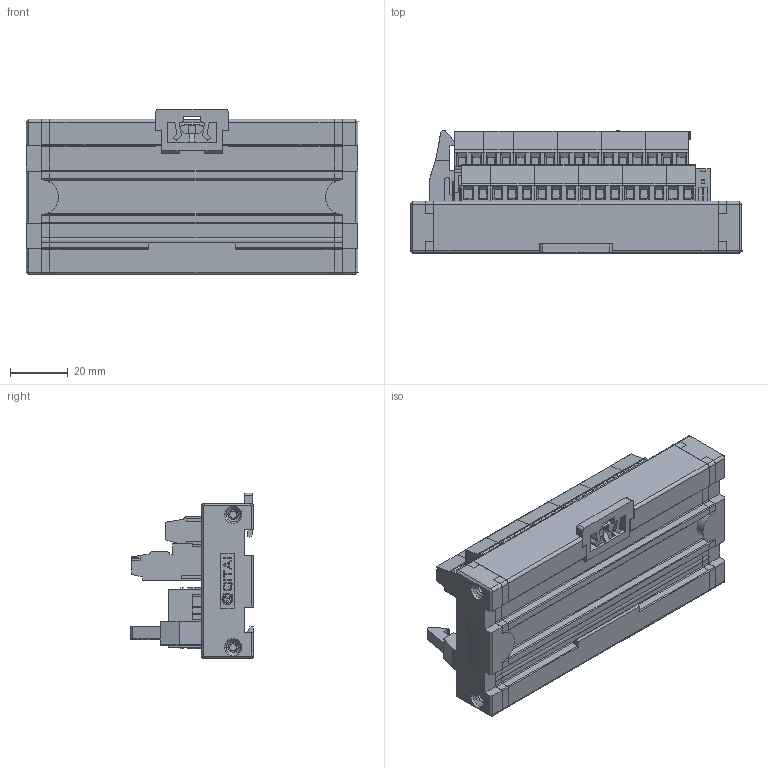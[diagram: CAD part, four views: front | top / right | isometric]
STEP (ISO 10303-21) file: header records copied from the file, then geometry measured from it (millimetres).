
FILE_DESCRIPTION (( 'STEP AP203' ), '1' );
FILE_NAME ('錨璃1^蚾饜极1QMT000.STEP', '2019-03-25T03:35:11', ( '' ), ( '' ), 'SwSTEP 2.0', 'SolidWorks 2014', '' );
FILE_SCHEMA (( 'CONFIG_CONTROL_DESIGN' ));
Products named in the file (1): 錨璃1^蚾饜极1QMT000
Bounding box: 115.1 x 42.58 x 57.5 mm (x, y, z)
Volume: 89402.4 mm3; surface area: 71440.1 mm2
Topology: 62 solids, 78 shells, 4435 faces, 11332 edges, 7338 vertices
Faces by surface type: plane 2623, cylinder 1366, bspline 302, cone 144
Entity records: 143233 total; most frequent: CARTESIAN_POINT 34262, ORIENTED_EDGE 22664, DIRECTION 22120, EDGE_CURVE 11332, VECTOR 7648, LINE 7648, VERTEX_POINT 7338, AXIS2_PLACEMENT_3D 7236
